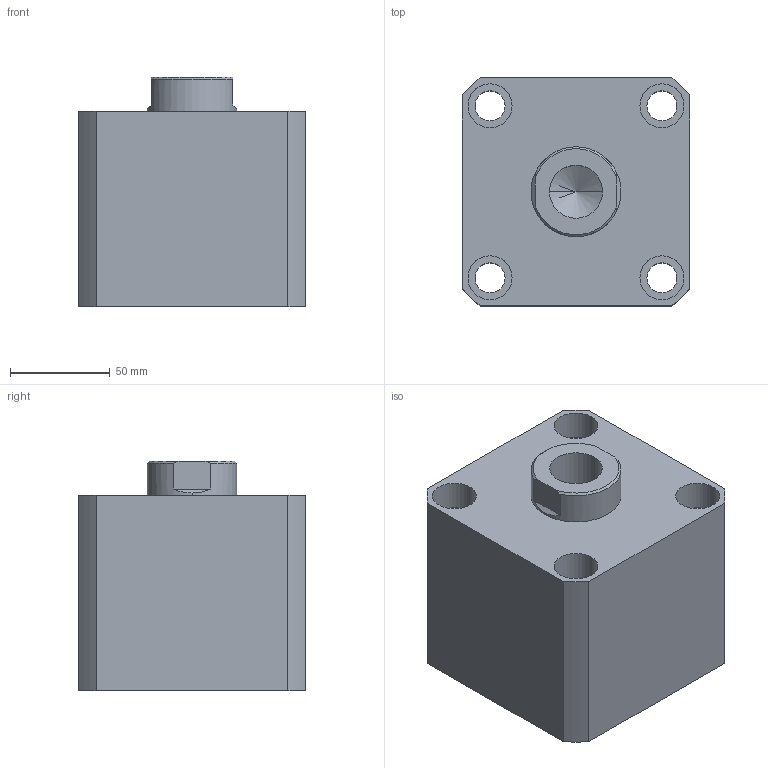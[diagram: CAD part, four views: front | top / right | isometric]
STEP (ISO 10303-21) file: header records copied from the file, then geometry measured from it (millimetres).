
FILE_DESCRIPTION (( 'STEP AP203' ), '1' );
FILE_NAME ('HTB-SDMB80-20N.STEP', '2019-10-09T05:59:39', ( '微软用户' ), ( '微软中国' ), 'SwSTEP 2.0', 'SolidWorks 2012', '' );
FILE_SCHEMA (( 'CONFIG_CONTROL_DESIGN' ));
Length unit declared in the file: millimetre
Products named in the file (3): HTB-SDMB80-20掛极; HTB-SDMB80-20N活塞杆; HTB-SDMB80-20N
Assembly tree (2 placements, depth 2):
  HTB-SDMB80-20N
    HTB-SDMB80-20掛极
    HTB-SDMB80-20N活塞杆
Bounding box: 114 x 114 x 115 mm (x, y, z)
Volume: 1098701.3 mm3; surface area: 143421.7 mm2
Topology: 2 solids, 2 shells, 137 faces, 331 edges, 217 vertices
Faces by surface type: plane 65, cylinder 46, bspline 16, torus 6, cone 4
Entity records: 5070 total; most frequent: CARTESIAN_POINT 1576, ORIENTED_EDGE 658, DIRECTION 647, EDGE_CURVE 329, AXIS2_PLACEMENT_3D 232, VERTEX_POINT 217, LINE 183, VECTOR 183
